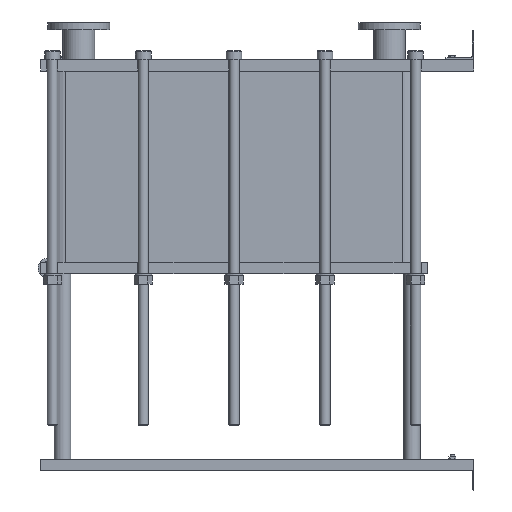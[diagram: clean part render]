
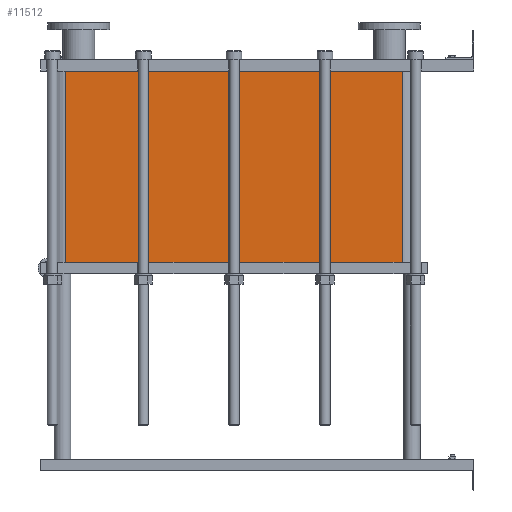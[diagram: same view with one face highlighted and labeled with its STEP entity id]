
A CAD part, left-side view. The second image highlights one B-rep face of the part: STEP entity #11512.
In plain terms, the highlighted planar face has unit normal (-1, 0, 0).
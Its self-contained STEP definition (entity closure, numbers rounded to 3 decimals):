
#1129=LINE('',#23232,#2102);
#1130=LINE('',#23236,#2103);
#1131=LINE('',#23238,#2104);
#1132=LINE('',#23239,#2105);
#2102=VECTOR('',#15887,10.);
#2103=VECTOR('',#15892,10.);
#2104=VECTOR('',#15893,10.);
#2105=VECTOR('',#15894,10.);
#3267=FACE_OUTER_BOUND('',#4093,.T.);
#4093=EDGE_LOOP('',(#10103,#10104,#10105,#10106));
#5642=VERTEX_POINT('',#23229);
#5643=VERTEX_POINT('',#23231);
#5644=VERTEX_POINT('',#23235);
#5645=VERTEX_POINT('',#23237);
#7159=EDGE_CURVE('',#5643,#5642,#1129,.T.);
#7161=EDGE_CURVE('',#5642,#5644,#1130,.T.);
#7162=EDGE_CURVE('',#5645,#5644,#1131,.T.);
#7163=EDGE_CURVE('',#5645,#5643,#1132,.T.);
#10103=ORIENTED_EDGE('',*,*,#7161,.T.);
#10104=ORIENTED_EDGE('',*,*,#7162,.F.);
#10105=ORIENTED_EDGE('',*,*,#7163,.T.);
#10106=ORIENTED_EDGE('',*,*,#7159,.T.);
#10857=PLANE('',#12751);
#11512=ADVANCED_FACE('',(#3267),#10857,.T.);
#12751=AXIS2_PLACEMENT_3D('',#23234,#15890,#15891);
#15887=DIRECTION('',(0.,0.,-1.));
#15890=DIRECTION('center_axis',(-1.,0.,0.));
#15891=DIRECTION('ref_axis',(0.,1.,0.));
#15892=DIRECTION('',(0.,-1.,0.));
#15893=DIRECTION('',(0.,0.,-1.));
#15894=DIRECTION('',(0.,1.,0.));
#23229=CARTESIAN_POINT('',(-200.,1414.,-662.4));
#23231=CARTESIAN_POINT('',(-200.,1414.,0.));
#23232=CARTESIAN_POINT('',(-200.,1414.,0.));
#23234=CARTESIAN_POINT('Origin',(-200.,248.,0.));
#23235=CARTESIAN_POINT('',(-200.,248.,-662.4));
#23236=CARTESIAN_POINT('',(-200.,539.5,-662.4));
#23237=CARTESIAN_POINT('',(-200.,248.,0.));
#23238=CARTESIAN_POINT('',(-200.,248.,0.));
#23239=CARTESIAN_POINT('',(-200.,248.,0.));
